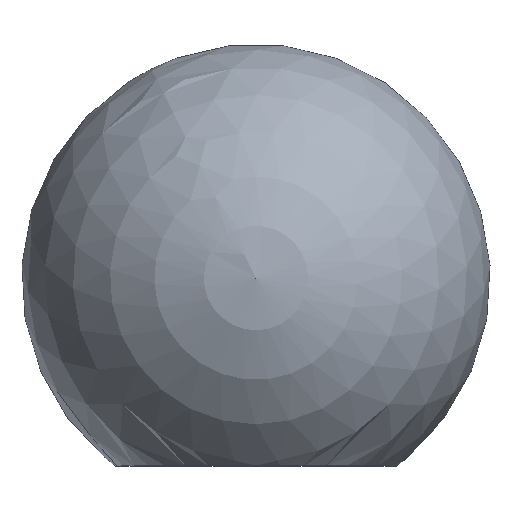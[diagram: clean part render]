
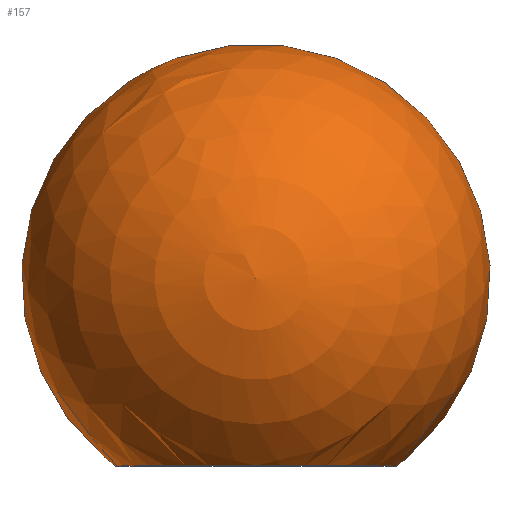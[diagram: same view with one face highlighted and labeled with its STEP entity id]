
A CAD part, top view. The second image highlights one B-rep face of the part: STEP entity #157.
In plain terms, the highlighted spherical face has radius 12.5 mm.
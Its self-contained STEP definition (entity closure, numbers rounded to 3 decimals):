
#4 = EDGE_CURVE ( 'NONE', #165, #165, #64, .T. ) ;
#6 = SPHERICAL_SURFACE ( 'NONE', #89, 12.5 ) ;
#7 = DIRECTION ( 'NONE',  ( 0., -1., 0. ) ) ;
#14 = ORIENTED_EDGE ( 'NONE', *, *, #4, .F. ) ;
#29 = FACE_OUTER_BOUND ( 'NONE', #162, .T. ) ;
#41 = DIRECTION ( 'NONE',  ( 0., 0., -1. ) ) ;
#49 = CARTESIAN_POINT ( 'NONE',  ( 0., 0., -7.5 ) ) ;
#64 = CIRCLE ( 'NONE', #159, 7.5 ) ;
#71 = CARTESIAN_POINT ( 'NONE',  ( 0., 10., 0. ) ) ;
#89 = AXIS2_PLACEMENT_3D ( 'NONE', #71, #121, #172 ) ;
#120 = CARTESIAN_POINT ( 'NONE',  ( 0., 0., 0. ) ) ;
#121 = DIRECTION ( 'NONE',  ( 0., 0., 1. ) ) ;
#157 = ADVANCED_FACE ( 'NONE', ( #29 ), #6, .T. ) ;
#159 = AXIS2_PLACEMENT_3D ( 'NONE', #120, #7, #41 ) ;
#162 = EDGE_LOOP ( 'NONE', ( #14 ) ) ;
#165 = VERTEX_POINT ( 'NONE', #49 ) ;
#172 = DIRECTION ( 'NONE',  ( 1., 0., 0. ) ) ;
